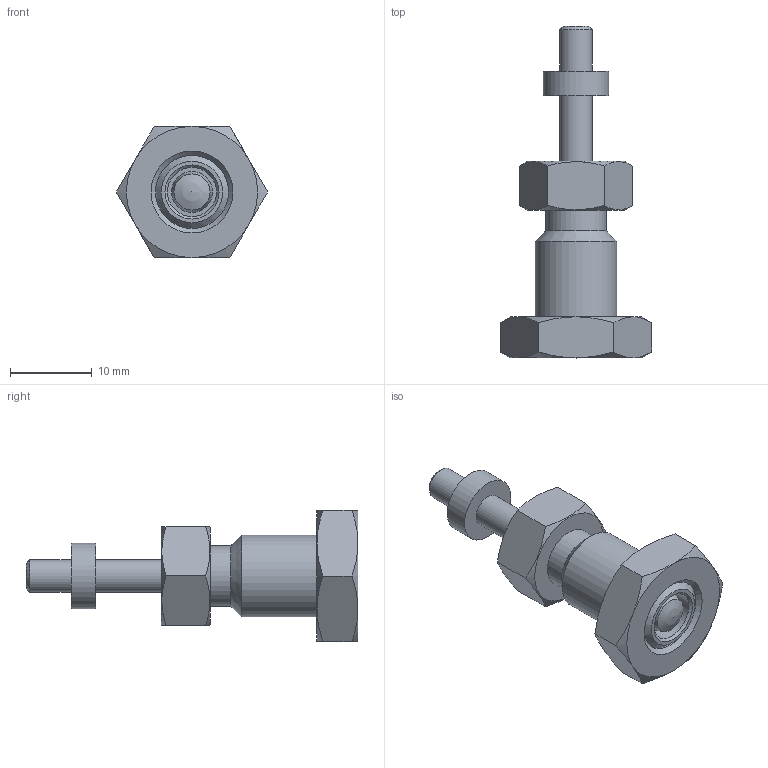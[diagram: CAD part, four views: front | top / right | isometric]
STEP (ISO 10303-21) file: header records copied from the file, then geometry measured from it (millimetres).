
FILE_DESCRIPTION( ( 'STEP AP203' ), '1' );
FILE_NAME( 'C:/Temp/Ganter_Step_05_03_2020/data/3_1/gn817/gn817_ni-rastbolzen/Stainless Steel-Indexing plunger GN 817-5-8-GK-NI (activated-0).stp', '2020-03-12T09:00:00', ( 'License CC BY-ND 4.0' ), ( 'CADENAS' ), ' ', 'PARTsolutions', ' ' );
FILE_SCHEMA( ( 'CONFIG_CONTROL_DESIGN' ) );
Length unit declared in the file: millimetre
Products named in the file (5): Stainless Steel-Indexing plunger GN 817-5-8-GK-NI (activated-0); _Stainless steel-Indexing plunger GN 817-5-8-GK-NI (activated-0)-d; _Stainless steel-Indexing plunger GN 817-5-8-B-NI-2; _Stainless Steel-Indexing plunger GN 817-5-8-G-NI-6; _Stainless steel-Indexing plunger GN 817-5-8-BK-NI (deactivated-0)-3
Assembly tree (4 placements, depth 2):
  Stainless Steel-Indexing plunger GN 817-5-8-GK-NI (activated-0)
    _Stainless steel-Indexing plunger GN 817-5-8-GK-NI (activated-0)-d
    _Stainless steel-Indexing plunger GN 817-5-8-B-NI-2
    _Stainless Steel-Indexing plunger GN 817-5-8-G-NI-6
    _Stainless steel-Indexing plunger GN 817-5-8-BK-NI (deactivated-0)-3
Bounding box: 18.48 x 40.5 x 16 mm (x, y, z)
Volume: 3034.3 mm3; surface area: 2904.6 mm2
Topology: 3 solids, 3 shells, 58 faces, 118 edges, 72 vertices
Faces by surface type: plane 23, cone 22, cylinder 10, torus 2, sphere 1
Full cylindrical faces by diameter (mm): 4 x3, 5 x1, 6 x2, 7.4 x1, 8 x1, 8.917 x1, 10 x1
Entity records: 1704 total; most frequent: CARTESIAN_POINT 467, DIRECTION 224, ORIENTED_EDGE 182, AXIS2_PLACEMENT_3D 106, EDGE_CURVE 91, EDGE_LOOP 90, FACE_OUTER_BOUND 70, VERTEX_POINT 68
